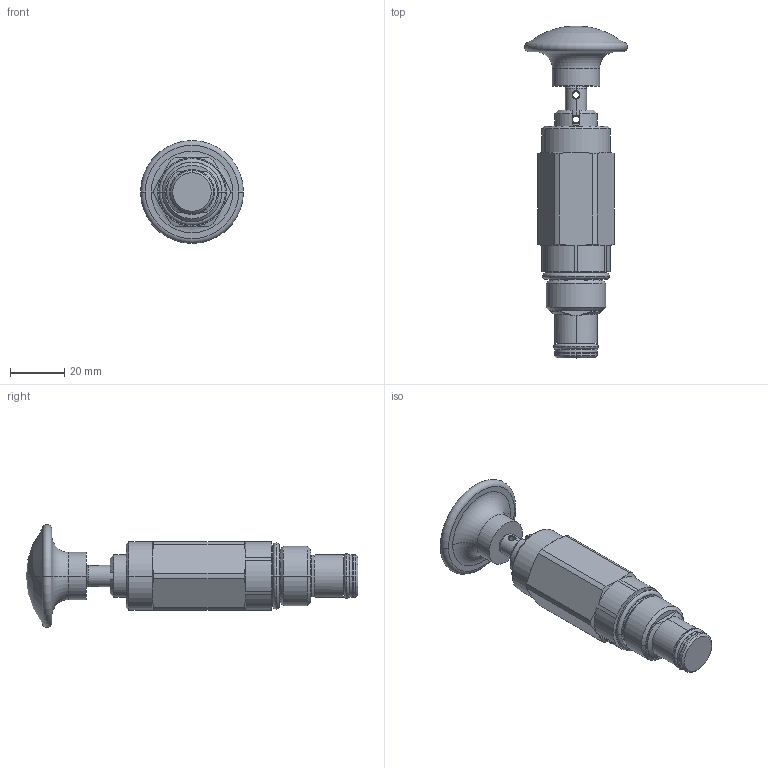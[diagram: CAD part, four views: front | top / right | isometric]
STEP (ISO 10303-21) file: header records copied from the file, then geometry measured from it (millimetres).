
FILE_DESCRIPTION((''),'2;1');
FILE_NAME('5271505_SW0004','2009-02-04T',('jcs'),(''),'PRO/ENGINEER BY PARAMETRIC TECHNOLOGY CORPORATION, 2008010','PRO/ENGINEER BY PARAMETRIC TECHNOLOGY CORPORATION, 2008010','');
FILE_SCHEMA(('CONFIG_CONTROL_DESIGN'));
Length unit declared in the file: inch
Products named in the file (1): 5271505_SW0004
Bounding box: 38.1 x 122.91 x 38.1 mm (x, y, z)
Volume: 49065.7 mm3; surface area: 12859.8 mm2
Topology: 3 solids, 4 shells, 151 faces, 368 edges, 223 vertices
Faces by surface type: cylinder 46, plane 35, cone 34, torus 18, revolution 16, sphere 2
Entity records: 5134 total; most frequent: CARTESIAN_POINT 1548, DIRECTION 760, ORIENTED_EDGE 732, EDGE_CURVE 366, AXIS2_PLACEMENT_3D 311, VERTEX_POINT 223, CIRCLE 176, EDGE_LOOP 159
